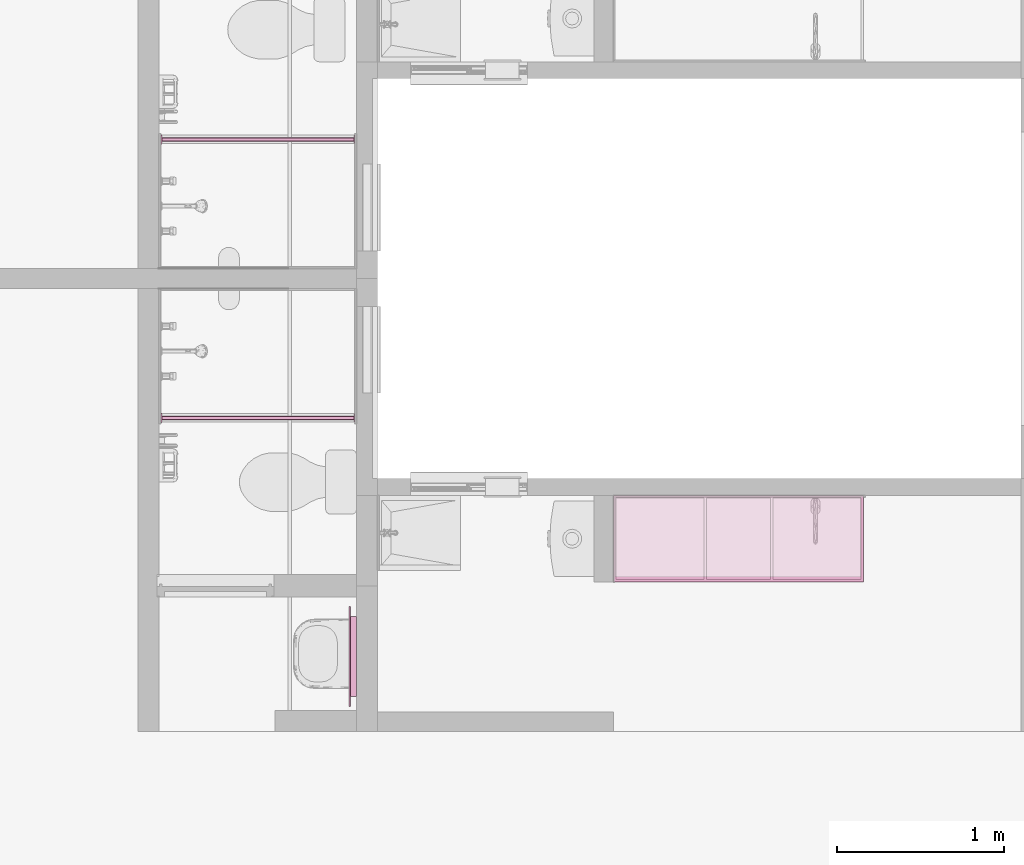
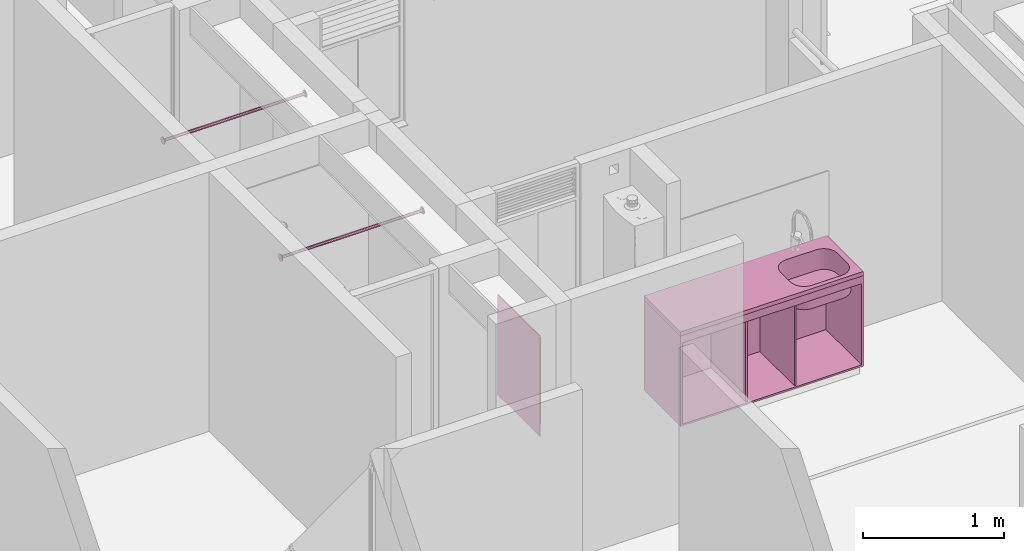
# One storey, part 42 of 48: 5 furniture elements.
"""IFC4 building model written with IfcOpenShell, lengths in metres."""

from ifc_helpers import new_model, entity, si_unit, converted_unit, derived_unit, direction, frame, origin, place, context, subcontext, project, spatial, arc, indexed_curve, outline, extrude, polygons, source, transform, mapped, material, constituent, constituent_set, type_object, type_shapes, element, save


model = new_model("IFC4")

# Units and contexts
model_context = context("Model", 3, precision=1e-05, world=origin(), true_north=direction((6.123031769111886e-17, 1.0)))
body_context = subcontext(model_context, "Body", "Model", "MODEL_VIEW")
ifc_project = project(units=[si_unit("LENGTHUNIT", "METRE"), si_unit("AREAUNIT", "SQUARE_METRE"), si_unit("VOLUMEUNIT", "CUBIC_METRE"), converted_unit("PLANEANGLEUNIT", "DEGREE", entity("IfcRatioMeasure", 0.017453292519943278), si_unit("PLANEANGLEUNIT", "RADIAN"), dimensions=[0, 0, 0, 0, 0, 0, 0]), si_unit("MASSUNIT", "GRAM", prefix="KILO"), derived_unit("MASSDENSITYUNIT", [(si_unit("MASSUNIT", "GRAM", prefix="KILO"), 1), (si_unit("LENGTHUNIT", "METRE"), -3)]), derived_unit("IONCONCENTRATIONUNIT", [(si_unit("MASSUNIT", "GRAM", prefix="KILO"), 1), (si_unit("LENGTHUNIT", "METRE"), -3)]), derived_unit("MOMENTOFINERTIAUNIT", [(si_unit("LENGTHUNIT", "METRE"), 4)]), si_unit("TIMEUNIT", "SECOND"), si_unit("FREQUENCYUNIT", "HERTZ"), si_unit("THERMODYNAMICTEMPERATUREUNIT", "DEGREE_CELSIUS"), derived_unit("THERMALTRANSMITTANCEUNIT", [(si_unit("MASSUNIT", "GRAM", prefix="KILO"), 1), (si_unit("THERMODYNAMICTEMPERATUREUNIT", "KELVIN"), -1), (si_unit("TIMEUNIT", "SECOND"), -3)]), derived_unit("THERMALCONDUCTANCEUNIT", [(si_unit("MASSUNIT", "GRAM", prefix="KILO"), 1), (si_unit("THERMODYNAMICTEMPERATUREUNIT", "KELVIN"), -1), (si_unit("TIMEUNIT", "SECOND"), -3), (si_unit("LENGTHUNIT", "METRE"), 1)]), derived_unit("VOLUMETRICFLOWRATEUNIT", [(si_unit("LENGTHUNIT", "METRE"), 3), (si_unit("TIMEUNIT", "SECOND"), -1)]), derived_unit("MASSFLOWRATEUNIT", [(si_unit("MASSUNIT", "GRAM", prefix="KILO"), 1), (si_unit("TIMEUNIT", "SECOND"), -1)]), derived_unit("ROTATIONALFREQUENCYUNIT", [(si_unit("TIMEUNIT", "SECOND"), -1)]), si_unit("ELECTRICCURRENTUNIT", "AMPERE"), si_unit("ELECTRICVOLTAGEUNIT", "VOLT"), si_unit("POWERUNIT", "WATT"), si_unit("FORCEUNIT", "NEWTON", prefix="KILO"), si_unit("ILLUMINANCEUNIT", "LUX"), si_unit("LUMINOUSFLUXUNIT", "LUMEN"), si_unit("LUMINOUSINTENSITYUNIT", "CANDELA"), derived_unit("USERDEFINED", [(si_unit("MASSUNIT", "GRAM", prefix="KILO"), -1), (si_unit("LENGTHUNIT", "METRE"), -2), (si_unit("TIMEUNIT", "SECOND"), 3), (si_unit("LUMINOUSFLUXUNIT", "LUMEN"), 1)]), derived_unit("USERDEFINED", [(si_unit("MASSUNIT", "GRAM", prefix="KILO"), 1), (si_unit("TIMEUNIT", "SECOND"), -3), (si_unit("LENGTHUNIT", "METRE"), 3), (si_unit("ELECTRICCURRENTUNIT", "AMPERE"), -2)]), derived_unit("SOUNDPOWERUNIT", [(si_unit("MASSUNIT", "GRAM", prefix="KILO"), 1), (si_unit("TIMEUNIT", "SECOND"), -3), (si_unit("LENGTHUNIT", "METRE"), 2)]), derived_unit("SOUNDPRESSUREUNIT", [(si_unit("MASSUNIT", "GRAM", prefix="KILO"), 1), (si_unit("LENGTHUNIT", "METRE"), -1), (si_unit("TIMEUNIT", "SECOND"), -2)]), derived_unit("LINEARVELOCITYUNIT", [(si_unit("LENGTHUNIT", "METRE"), 1), (si_unit("TIMEUNIT", "SECOND"), -1)]), si_unit("PRESSUREUNIT", "PASCAL"), derived_unit("USERDEFINED", [(si_unit("MASSUNIT", "GRAM", prefix="KILO"), 1), (si_unit("LENGTHUNIT", "METRE"), -2), (si_unit("TIMEUNIT", "SECOND"), -2)]), derived_unit("LINEARFORCEUNIT", [(si_unit("MASSUNIT", "GRAM", prefix="KILO"), 1), (si_unit("TIMEUNIT", "SECOND"), -2)]), derived_unit("PLANARFORCEUNIT", [(si_unit("MASSUNIT", "GRAM", prefix="KILO"), 1), (si_unit("LENGTHUNIT", "METRE"), -1), (si_unit("TIMEUNIT", "SECOND"), -2)]), derived_unit("SPECIFICHEATCAPACITYUNIT", [(si_unit("THERMODYNAMICTEMPERATUREUNIT", "KELVIN"), -1), (si_unit("LENGTHUNIT", "METRE"), 2), (si_unit("TIMEUNIT", "SECOND"), -2)]), derived_unit("HEATINGVALUEUNIT", [(si_unit("LENGTHUNIT", "METRE"), 2), (si_unit("TIMEUNIT", "SECOND"), -2)]), derived_unit("VAPORPERMEABILITYUNIT", [(si_unit("LENGTHUNIT", "METRE"), -1), (si_unit("TIMEUNIT", "SECOND"), 1)]), derived_unit("DYNAMICVISCOSITYUNIT", [(si_unit("MASSUNIT", "GRAM", prefix="KILO"), 1), (si_unit("TIMEUNIT", "SECOND"), -1), (si_unit("LENGTHUNIT", "METRE"), -1)]), derived_unit("THERMALEXPANSIONCOEFFICIENTUNIT", [(si_unit("THERMODYNAMICTEMPERATUREUNIT", "KELVIN"), -1)]), derived_unit("MODULUSOFELASTICITYUNIT", [(si_unit("MASSUNIT", "GRAM", prefix="KILO"), 1), (si_unit("LENGTHUNIT", "METRE"), -1), (si_unit("TIMEUNIT", "SECOND"), -2)]), derived_unit("ISOTHERMALMOISTURECAPACITYUNIT", [(si_unit("LENGTHUNIT", "METRE"), 3), (si_unit("MASSUNIT", "GRAM", prefix="KILO"), -1)]), derived_unit("MOISTUREDIFFUSIVITYUNIT", [(si_unit("TIMEUNIT", "SECOND"), -1), (si_unit("LENGTHUNIT", "METRE"), 2)])], contexts=[model_context])

# Site, building, storey
site_placement = place(None, origin())
site = spatial("IfcSite", under=ifc_project, at=site_placement, Name="Default", CompositionType="ELEMENT")
building_placement = place(site_placement, origin())
building = spatial("IfcBuilding", under=site, at=building_placement, CompositionType="ELEMENT")
storey_placement = place(building_placement, frame((0.0, 0.0, 4.700000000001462)))
storey = spatial("IfcBuildingStorey", under=building, at=storey_placement, Name="Nivel 3", CompositionType="ELEMENT", Elevation=4.700000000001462)

# Furniture
ifc_material_1 = material(Name="Aluminio", Category="Materials")
ifc_constituent_1 = constituent(ifc_material_1, Name="Aluminio", Category="Materials")
ifc_material_2 = material(Name="ESPEJO", Category="Materials")
ifc_constituent_2 = constituent(ifc_material_2, Name="ESPEJO", Category="Materials")
ifc_constituent_set_1 = constituent_set(constituents=[ifc_constituent_1, ifc_constituent_2])
ifc_constituent_3 = constituent(ifc_material_1, Name="Aluminio", Category="Materials")
ifc_constituent_4 = constituent(ifc_material_2, Name="ESPEJO", Category="Materials")
ifc_constituent_set_2 = constituent_set(constituents=[ifc_constituent_3, ifc_constituent_4])
furniture_type_1 = type_object("IfcFurnitureType", Name="E2050 - Espejo:E2050 - 0.60m x 0.87m - Espejo", AssemblyPlace="NOTDEFINED", PredefinedType="NOTDEFINED", material=ifc_constituent_set_2)
shared_shape_1 = source(origin(), body_context, "Body", "SweptSolid", [
    extrude(outline(indexed_curve([(-0.23999999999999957, -0.3749999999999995), (0.2399999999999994, -0.3749999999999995), (0.2399999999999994, 0.37499999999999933), (-0.23999999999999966, 0.3749999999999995), (-0.23999999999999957, -0.3749999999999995)], self_intersect=False), holes=[indexed_curve([(0.2149999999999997, -0.34999999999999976), (-0.21499999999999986, -0.34999999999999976), (-0.21499999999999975, 0.34999999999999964), (0.2149999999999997, 0.34999999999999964), (0.2149999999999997, -0.34999999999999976)], self_intersect=False)]), frame((0.12499999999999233, 0.062499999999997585, 1.485), z_axis=(0.0, 1.0, 0.0), x_axis=(1.0, 0.0, 0.0)), (0.0, 0.0, 1.0), 0.037500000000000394),
    extrude(outline(indexed_curve([(-0.00350000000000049, -0.30000000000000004), (0.00350000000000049, -0.30000000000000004), (0.00350000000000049, 0.30000000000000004), (-0.00350000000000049, 0.30000000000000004), (-0.00350000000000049, -0.30000000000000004)], self_intersect=False)), frame((0.1249999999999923, 0.10350000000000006, 1.05), z_axis=(0.0, 0.0, 1.0), x_axis=(0.0, 1.0, 0.0)), (0.0, 0.0, 1.0), 0.87),
])
type_shapes(furniture_type_1, [shared_shape_1])
furniture_1_placement = place(storey_placement, frame((4.024999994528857, -8.815000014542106, -0.020000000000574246), z_axis=(0.0, 0.0, 1.0), x_axis=(0.0, 1.0, 0.0)))
element("IfcFurniture", 1, at=furniture_1_placement, inside=storey, type_object=furniture_type_1, material=ifc_constituent_set_1, Name="E2050 - Espejo:E2050 - 0.60m x 0.87m - Espejo", ObjectType="E2050 - Espejo:E2050 - 0.60m x 0.87m - Espejo", PredefinedType="NOTDEFINED", context=body_context, shape_type="MappedRepresentation", body=[
    mapped(shared_shape_1, transform((0.0, 0.0, 0.0), scale=1.0)),
])

# Space
space_1_placement = place(storey_placement, origin())
space_1 = spatial("IfcSpace", under=storey, at=space_1_placement, Name="151", CompositionType="ELEMENT", PredefinedType="SPACE")

# Furniture
ifc_material_3 = material(Name="<Unnamed>")
furniture_type_2 = type_object("IfcFurnitureType", Name="Barra baño:E2050- Barra Baño- Acero inoxidable", AssemblyPlace="NOTDEFINED", PredefinedType="NOTDEFINED", material=ifc_material_3)
shared_shape_2 = source(origin(), body_context, "Body", "SweptSolid", [
    extrude(outline(indexed_curve([(-0.025, 0.0), (-9.341026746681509e-17, -0.025), (0.025, 2.707167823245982e-16), (-1.316959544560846e-16, 0.025)], segments=[arc(1, 2, 3), arc(3, 4, 1)], self_intersect=False)), frame((-1.1599989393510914, 0.0, 1.8000000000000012), z_axis=(1.0, 0.0, 0.0), x_axis=(0.0, 1.0, 0.0)), (0.0, 0.0, 1.0), 0.005000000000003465),
    extrude(outline(indexed_curve([(-0.03, 0.0), (-1.1209232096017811e-16, -0.029999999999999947), (0.03, 2.707167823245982e-16), (-1.3138979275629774e-16, 0.029999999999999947)], segments=[arc(1, 2, 3), arc(3, 4, 1)], self_intersect=False)), frame((-1.164998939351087, 0.0, 1.8000000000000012), z_axis=(1.0, 0.0, 0.0), x_axis=(0.0, 1.0, 0.0)), (0.0, 0.0, 1.0), 0.0049999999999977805),
    extrude(outline(indexed_curve([(-0.0125, 0.0), (-4.6705133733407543e-17, -0.012499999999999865), (0.0125, 0.0), (7.654042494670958e-19, 0.012499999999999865)], segments=[arc(1, 2, 3), arc(3, 4, 1)], self_intersect=False)), frame((-1.1549989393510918, 0.0, 1.7999999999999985), z_axis=(1.0, 0.0, 0.0), x_axis=(0.0, 1.0, 0.0)), (0.0, 0.0, 1.0), 1.149998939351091),
    extrude(outline(indexed_curve([(-0.025, 0.0), (-2.2663703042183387e-16, -0.025), (0.025, 0.0), (1.5308084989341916e-18, 0.025)], segments=[arc(1, 2, 3), arc(3, 4, 1)], self_intersect=False)), frame((-0.005000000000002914, 0.0, 1.7999999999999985), z_axis=(1.0, 0.0, 0.0), x_axis=(0.0, 1.0, 0.0)), (0.0, 0.0, 1.0), 0.005000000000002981),
    extrude(outline(indexed_curve([(-0.03, 0.0), (-2.1867373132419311e-16, -0.029999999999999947), (0.03, 0.0), (1.8369701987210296e-18, 0.029999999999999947)], segments=[arc(1, 2, 3), arc(3, 4, 1)], self_intersect=False)), frame((0.0, 0.0, 1.7999999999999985), z_axis=(1.0, 0.0, 0.0), x_axis=(0.0, 1.0, 0.0)), (0.0, 0.0, 1.0), 0.00499999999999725),
])
type_shapes(furniture_type_2, [shared_shape_2])
furniture_2_placement = place(space_1_placement, frame((3.952499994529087, -7.260000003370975, 0.1299999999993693)))
element("IfcFurniture", 2, at=furniture_2_placement, inside=space_1, type_object=furniture_type_2, material=ifc_material_3, Name="Barra baño:E2050- Barra Baño- Acero inoxidable", ObjectType="Barra baño:E2050- Barra Baño- Acero inoxidable", PredefinedType="NOTDEFINED", context=body_context, shape_type="MappedRepresentation", body=[
    mapped(shared_shape_2, transform((0.0, 0.0, 0.0), scale=1.0)),
])

# Space
space_2_placement = place(storey_placement, origin())
space_2 = spatial("IfcSpace", under=storey, at=space_2_placement, Name="144", CompositionType="ELEMENT", PredefinedType="SPACE")

# Furniture
furniture_type_3 = type_object("IfcFurnitureType", Name="Barra baño:E2050- Barra Baño- Acero inoxidable", AssemblyPlace="NOTDEFINED", PredefinedType="NOTDEFINED", material=ifc_material_3)
shared_shape_3 = source(origin(), body_context, "Body", "SweptSolid", [
    extrude(outline(indexed_curve([(-0.025, 2.707167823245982e-16), (-2.9325041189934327e-16, -0.025), (0.025, 0.0), (7.924642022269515e-17, 0.025)], segments=[arc(1, 2, 3), arc(3, 4, 1)], self_intersect=False)), frame((-1.1599989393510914, 0.0, 1.8000000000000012), z_axis=(1.0, 0.0, 0.0), x_axis=(0.0, -1.0, 0.0)), (0.0, 0.0, 1.0), 0.005000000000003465),
    extrude(outline(indexed_curve([(-0.03, 2.707167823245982e-16), (-3.2525514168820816e-16, -0.029999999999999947), (0.03, 0.0), (9.509570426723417e-17, 0.029999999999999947)], segments=[arc(1, 2, 3), arc(3, 4, 1)], self_intersect=False)), frame((-1.164998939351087, 0.0, 1.8000000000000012), z_axis=(1.0, 0.0, 0.0), x_axis=(0.0, -1.0, 0.0)), (0.0, 0.0, 1.0), 0.0049999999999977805),
    extrude(outline(indexed_curve([(-0.0125, 0.0), (-8.001182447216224e-17, -0.012499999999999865), (0.0125, 0.0), (3.9623210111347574e-17, 0.012499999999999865)], segments=[arc(1, 2, 3), arc(3, 4, 1)], self_intersect=False)), frame((-1.1549989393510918, 0.0, 1.7999999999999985), z_axis=(1.0, 0.0, 0.0), x_axis=(0.0, -1.0, 0.0)), (0.0, 0.0, 1.0), 1.149998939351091),
    extrude(outline(indexed_curve([(-0.025, 0.0), (-1.600236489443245e-16, -0.025000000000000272), (0.025, 0.0), (-5.398034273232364e-17, 0.02499999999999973)], segments=[arc(1, 2, 3), arc(3, 4, 1)], self_intersect=False)), frame((-0.005000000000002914, 0.0, 1.7999999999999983), z_axis=(1.0, 0.0, 0.0), x_axis=(0.0, -1.0, 0.0)), (0.0, 0.0, 1.0), 0.005000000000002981),
    extrude(outline(indexed_curve([(-0.03, 0.0), (-1.9202837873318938e-16, -0.030000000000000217), (0.03, 0.0), (-3.813105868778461e-17, 0.029999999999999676)], segments=[arc(1, 2, 3), arc(3, 4, 1)], self_intersect=False)), frame((0.0, 0.0, 1.7999999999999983), z_axis=(1.0, 0.0, 0.0), x_axis=(0.0, -1.0, 0.0)), (0.0, 0.0, 1.0), 0.00499999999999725),
])
type_shapes(furniture_type_3, [shared_shape_3])
furniture_3_placement = place(space_2_placement, frame((3.952499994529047, -5.590000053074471, 0.1299999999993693)))
element("IfcFurniture", 3, at=furniture_3_placement, inside=space_2, type_object=furniture_type_3, material=ifc_material_3, Name="Barra baño:E2050- Barra Baño- Acero inoxidable", ObjectType="Barra baño:E2050- Barra Baño- Acero inoxidable", PredefinedType="NOTDEFINED", context=body_context, shape_type="MappedRepresentation", body=[
    mapped(shared_shape_3, transform((0.0, 0.0, 0.0), scale=1.0)),
])

# Space
space_3_placement = place(storey_placement, origin())
space_3 = spatial("IfcSpace", under=storey, at=space_3_placement, Name="154", CompositionType="ELEMENT", PredefinedType="SPACE")

# Furniture
ifc_material_4 = material(Name="mueble cocina", Category="Materials")
furniture_type_4 = type_object("IfcFurnitureType", Name="E2010 - Mueble bajo de cocina - Madera:E2010 - 1.50 x 0.52 - Mueble bajo de cocina - Madera", AssemblyPlace="NOTDEFINED", PredefinedType="NOTDEFINED", material=ifc_material_4)
shared_shape_4 = source(origin(), body_context, "Body", "SweptSolid", [
    extrude(outline(indexed_curve([(-0.007500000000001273, -0.7349999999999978), (0.007499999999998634, -0.7349999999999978), (0.007500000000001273, 0.7349999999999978), (-0.007499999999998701, 0.7349999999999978), (-0.007500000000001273, -0.7349999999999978)], self_intersect=False)), frame((0.04470032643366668, -0.5125000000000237, 0.8149999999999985), z_axis=(0.0, 0.0, 1.0), x_axis=(0.0, -1.0, 0.0)), (0.0, 0.0, 1.0), 0.06500000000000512),
    extrude(outline(indexed_curve([(-0.2600000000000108, -0.7499999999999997), (0.260000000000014, -0.7499999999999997), (0.2600000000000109, 0.7500000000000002), (-0.2600000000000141, 0.7499999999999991), (-0.2600000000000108, -0.7499999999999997)], self_intersect=False)), frame((0.04470032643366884, -0.2600000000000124, 0.09500000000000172), z_axis=(0.0, 0.0, 1.0), x_axis=(0.0, -1.0, 0.0)), (0.0, 0.0, 1.0), 0.0149999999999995),
    extrude(outline(indexed_curve([(-0.007500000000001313, -0.7500000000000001), (0.007499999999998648, -0.7500000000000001), (0.0075000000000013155, 0.7500000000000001), (-0.007499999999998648, 0.7500000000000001), (-0.007500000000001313, -0.7500000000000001)], self_intersect=False)), frame((0.04470032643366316, -0.00749999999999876, 0.11000000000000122), z_axis=(0.0, 0.0, 1.0), x_axis=(0.0, -1.0, 0.0)), (0.0, 0.0, 1.0), 0.7700000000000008),
    extrude(outline(indexed_curve([(-0.007500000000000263, -0.24500000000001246), (0.007499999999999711, -0.24500000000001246), (0.007500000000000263, 0.24500000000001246), (-0.007499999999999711, 0.24500000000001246), (-0.007500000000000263, -0.24500000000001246)], self_intersect=False)), frame((-0.1552996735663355, -0.2600000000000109, 0.11000000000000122), z_axis=(0.0, 0.0, 1.0), x_axis=(-1.0, 0.0, 0.0)), (0.0, 0.0, 1.0), 0.7700000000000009),
    extrude(outline(indexed_curve([(-0.007499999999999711, -0.24500000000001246), (0.007500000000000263, -0.24500000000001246), (0.007499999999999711, 0.24500000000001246), (-0.007500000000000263, 0.24500000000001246), (-0.007499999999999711, -0.24500000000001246)], self_intersect=False)), frame((0.24470032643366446, -0.26000000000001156, 0.11000000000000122), z_axis=(0.0, 0.0, 1.0), x_axis=(-1.0, 0.0, 0.0)), (0.0, 0.0, 1.0), 0.7700000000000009),
    extrude(outline(indexed_curve([(-0.00750000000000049, -0.2525000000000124), (0.0074999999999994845, -0.25250000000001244), (0.007500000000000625, 0.2525000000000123), (-0.007499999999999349, 0.2525000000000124), (-0.00750000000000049, -0.2525000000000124)], self_intersect=False)), frame((0.7872003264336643, -0.2675000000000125, 0.11000000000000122), z_axis=(0.0, 0.0, 1.0), x_axis=(-1.0, 0.0, 0.0)), (0.0, 0.0, 1.0), 0.7700000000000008),
    extrude(outline(indexed_curve([(-0.007499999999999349, -0.2525000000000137), (0.007500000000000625, -0.2525000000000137), (0.0074999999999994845, 0.25250000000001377), (-0.00750000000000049, 0.2525000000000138), (-0.007499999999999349, -0.2525000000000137)], self_intersect=False)), frame((-0.697799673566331, -0.2675000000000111, 0.11000000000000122), z_axis=(0.0, 0.0, 1.0), x_axis=(-1.0, 0.0, 0.0)), (0.0, 0.0, 1.0), 0.7700000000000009),
])
type_shapes(furniture_type_4, [shared_shape_4])
furniture_4_placement = place(space_3_placement, frame((6.207799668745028, -7.7250000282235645, 0.014999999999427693)))
element("IfcFurniture", 4, at=furniture_4_placement, inside=space_3, type_object=furniture_type_4, material=ifc_material_4, Name="E2010 - Mueble bajo de cocina - Madera:E2010 - 1.50 x 0.52 - Mueble bajo de cocina - Madera", ObjectType="E2010 - Mueble bajo de cocina - Madera:E2010 - 1.50 x 0.52 - Mueble bajo de cocina - Madera", PredefinedType="NOTDEFINED", context=body_context, shape_type="MappedRepresentation", body=[
    mapped(shared_shape_4, transform((0.0, 0.0, 0.0), scale=1.0)),
])
ifc_material_5 = material(Name="Mesón cocina", Category="Materials")
furniture_type_5 = type_object("IfcFurnitureType", Name="E1060 - Meson Socoda Radiante - 1.50 X 0.52 - Acero inoxidable:E1060 - 1.50 x 0.52 - Meson de cocina, lavadero y estufa - Acero inoxidable", AssemblyPlace="NOTDEFINED", PredefinedType="NOTDEFINED", material=ifc_material_5)
shared_shape_5 = source(origin(), body_context, "Body", "Tessellation", [
    polygons([(0.7500000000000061, 0.2600000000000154, 0.03499999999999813), (-0.7499999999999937, 0.2600000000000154, 0.03499999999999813), (-0.7499999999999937, -0.2600000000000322, 0.03499999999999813), (0.7500000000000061, -0.2600000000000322, 0.03499999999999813), (0.23610399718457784, 0.03077661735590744, 0.03499999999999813), (0.23985215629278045, 0.05924671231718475, 0.03499999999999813), (0.2508412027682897, 0.08577661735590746, 0.03499999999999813), (0.2683222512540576, 0.10855836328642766, 0.03499999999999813), (0.2911039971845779, 0.1260394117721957, 0.03499999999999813), (0.31763390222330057, 0.13702845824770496, 0.03499999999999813), (0.3461039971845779, 0.1407766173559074, 0.03499999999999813), (0.593473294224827, 0.14077661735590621, 0.03499999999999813), (0.6219433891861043, 0.13702845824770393, 0.03499999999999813), (0.6484732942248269, 0.1260394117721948, 0.03499999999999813), (0.6712550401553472, 0.10855836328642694, 0.03499999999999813), (0.6887360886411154, 0.08577661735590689, 0.03499999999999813), (0.6997251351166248, 0.05924671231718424, 0.03499999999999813), (0.7034732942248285, 0.03077661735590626, 0.03499999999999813), (0.703473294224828, -0.11422338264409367, 0.03499999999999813), (0.6997251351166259, -0.14269347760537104, 0.03499999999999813), (0.6887360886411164, -0.1692233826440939, 0.03499999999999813), (0.6712550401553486, -0.1920051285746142, 0.03499999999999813), (0.6484732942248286, -0.20948617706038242, 0.03499999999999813), (0.6219433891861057, -0.22047522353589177, 0.03499999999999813), (0.5934732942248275, -0.22422338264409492, 0.03499999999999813), (0.3461039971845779, -0.22422338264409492, 0.03499999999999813), (0.31763390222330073, -0.22047522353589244, 0.03499999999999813), (0.2911039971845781, -0.20948617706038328, 0.03499999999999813), (0.2683222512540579, -0.1920051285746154, 0.03499999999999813), (0.2508412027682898, -0.1692233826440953, 0.03499999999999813), (0.23985215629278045, -0.14269347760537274, 0.03499999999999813), (0.23610399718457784, -0.11422338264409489, 0.03499999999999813), (0.7500000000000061, 0.2600000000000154, -1.8678232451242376e-15), (0.7500000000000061, -0.2600000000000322, -1.8678232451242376e-15), (-0.7499999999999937, -0.2600000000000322, -1.8678232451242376e-15), (-0.7499999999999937, 0.2600000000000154, -1.8678232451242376e-15), (0.5934732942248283, 0.1507766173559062, -1.8678232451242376e-15), (0.34610399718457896, 0.1507766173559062, -1.8678232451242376e-15), (0.31504571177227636, 0.1466877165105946, -1.8678232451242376e-15), (0.2861039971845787, 0.13469966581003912, -1.8678232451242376e-15), (0.2612511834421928, 0.11562943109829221, -1.8678232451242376e-15), (0.2421809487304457, 0.09077661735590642, -1.8678232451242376e-15), (0.23019289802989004, 0.06183490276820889, -1.8678232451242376e-15), (0.22610399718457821, 0.030776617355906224, -1.8678232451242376e-15), (0.22610399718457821, -0.11422338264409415, -1.8678232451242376e-15), (0.2301928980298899, -0.14528166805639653, -1.8678232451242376e-15), (0.24218094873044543, -0.17422338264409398, -1.8678232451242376e-15), (0.2612511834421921, -0.19907619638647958, -1.8678232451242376e-15), (0.2861039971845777, -0.2181464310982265, -1.8678232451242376e-15), (0.31504571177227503, -0.2301344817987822, -1.8678232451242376e-15), (0.3461039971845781, -0.23422338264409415, -1.8678232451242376e-15), (0.5934732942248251, -0.23422338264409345, -1.8678232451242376e-15), (0.6245315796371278, -0.2301344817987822, -1.8678232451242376e-15), (0.6534732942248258, -0.21814643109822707, -1.8678232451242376e-15), (0.6783261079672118, -0.19907619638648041, -1.8678232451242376e-15), (0.6973963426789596, -0.17422338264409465, -1.8678232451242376e-15), (0.7093843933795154, -0.14528166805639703, -1.8678232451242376e-15), (0.7134732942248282, -0.11422338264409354, -1.8678232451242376e-15), (0.7134732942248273, 0.030776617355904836, -1.8678232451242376e-15), (0.7093843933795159, 0.061834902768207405, -1.8678232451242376e-15), (0.6973963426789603, 0.09077661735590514, -1.8678232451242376e-15), (0.6783261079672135, 0.11562943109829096, -1.8678232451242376e-15), (0.6534732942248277, 0.13469966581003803, -1.8678232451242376e-15), (0.62453157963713, 0.1466877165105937, -1.8678232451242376e-15), (0.5934732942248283, 0.15077661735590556, -0.16000000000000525), (0.6245315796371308, 0.1466877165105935, -0.16000000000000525), (0.6534732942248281, 0.13469966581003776, -0.16000000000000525), (0.6783261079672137, 0.1156294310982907, -0.16000000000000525), (0.6973963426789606, 0.0907766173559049, -0.16000000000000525), (0.7093843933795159, 0.06183490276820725, -0.16000000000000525), (0.7134732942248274, 0.030776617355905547, -0.16000000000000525), (0.7134732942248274, -0.11422338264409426, -0.16000000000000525), (0.7093843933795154, -0.1452816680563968, -0.16000000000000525), (0.6973963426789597, -0.1742233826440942, -0.16000000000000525), (0.6783261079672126, -0.19907619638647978, -0.16000000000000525), (0.6534732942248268, -0.21814643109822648, -0.16000000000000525), (0.6245315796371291, -0.2301344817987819, -0.16000000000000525), (0.5934732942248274, -0.2342233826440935, -0.16000000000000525), (0.3461039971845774, -0.23422338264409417, -0.16000000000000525), (0.3150457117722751, -0.23013448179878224, -0.16000000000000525), (0.28610399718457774, -0.21814643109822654, -0.16000000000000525), (0.26125118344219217, -0.19907619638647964, -0.16000000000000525), (0.24218094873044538, -0.17422338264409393, -0.16000000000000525), (0.2301928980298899, -0.14528166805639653, -0.16000000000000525), (0.22610399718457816, -0.11422338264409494, -0.16000000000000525), (0.22610399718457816, 0.030776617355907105, -0.16000000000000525), (0.23019289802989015, 0.06183490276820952, -0.16000000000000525), (0.2421809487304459, 0.09077661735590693, -0.16000000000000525), (0.261251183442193, 0.11562943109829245, -0.16000000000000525), (0.2861039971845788, 0.13469966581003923, -0.16000000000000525), (0.31504571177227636, 0.1466877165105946, -0.16000000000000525), (0.3461039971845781, 0.1507766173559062, -0.16000000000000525), (0.3461039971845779, 0.14077661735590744, -0.14475899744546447), (0.31763390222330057, 0.13702845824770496, -0.14475899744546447), (0.2911039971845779, 0.1260394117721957, -0.14475899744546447), (0.2683222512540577, 0.10855836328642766, -0.14475899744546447), (0.25084120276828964, 0.08577661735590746, -0.14475899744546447), (0.2398521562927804, 0.05924671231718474, -0.14475899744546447), (0.23610399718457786, 0.03077661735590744, -0.14475899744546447), (0.23610399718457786, -0.11422338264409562, -0.14475899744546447), (0.23985215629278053, -0.14269347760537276, -0.14475899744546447), (0.25084120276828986, -0.16922338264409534, -0.14475899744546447), (0.2683222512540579, -0.19200512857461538, -0.14475899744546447), (0.2911039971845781, -0.20948617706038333, -0.14475899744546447), (0.31763390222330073, -0.22047522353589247, -0.14475899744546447), (0.3461039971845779, -0.2242233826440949, -0.14475899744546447), (0.5934732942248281, -0.22422338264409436, -0.14475899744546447), (0.6219433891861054, -0.22047522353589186, -0.14475899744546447), (0.6484732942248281, -0.20948617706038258, -0.14475899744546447), (0.6712550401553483, -0.19200512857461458, -0.14475899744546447), (0.6887360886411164, -0.16922338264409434, -0.14475899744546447), (0.6997251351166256, -0.14269347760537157, -0.14475899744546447), (0.7034732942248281, -0.11422338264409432, -0.14475899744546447), (0.7034732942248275, 0.030776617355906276, -0.14475899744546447), (0.699725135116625, 0.05924671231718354, -0.14475899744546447), (0.6887360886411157, 0.08577661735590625, -0.14475899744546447), (0.6712550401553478, 0.10855836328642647, -0.14475899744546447), (0.6484732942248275, 0.1260394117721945, -0.14475899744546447), (0.6219433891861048, 0.13702845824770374, -0.14475899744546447), (0.5934732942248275, 0.14077661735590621, -0.14475899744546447)], [[[1, 2, 3, 4], [17, 18, 19, 20, 21, 22, 23, 24, 25, 26, 27, 28, 29, 30, 31, 32, 5, 6, 7, 8, 9, 10, 11, 12, 13, 14, 15, 16]], [[118, 119, 120, 93, 94, 95, 96, 97, 98, 99, 100, 101, 102, 103, 104, 105, 106, 107, 108, 109, 110, 111, 112, 113, 114, 115, 116, 117]], [[36, 33, 34, 35], [43, 44, 45, 46, 47, 48, 49, 50, 51, 52, 53, 54, 55, 56, 57, 58, 59, 60, 61, 62, 63, 64, 37, 38, 39, 40, 41, 42]], [[89, 90, 91, 92, 65, 66, 67, 68, 69, 70, 71, 72, 73, 74, 75, 76, 77, 78, 79, 80, 81, 82, 83, 84, 85, 86, 87, 88]], [[2, 1, 33, 36]], [[38, 37, 65, 92]], [[106, 26, 25, 107]], [[3, 2, 36, 35]], [[45, 44, 86, 85]], [[114, 113, 19, 18]], [[4, 3, 35, 34]], [[52, 51, 79, 78]], [[120, 12, 11, 93]], [[1, 4, 34, 33]], [[59, 58, 72, 71]], [[99, 5, 32, 100]], [[39, 91, 90, 40]], [[109, 108, 24, 23]], [[40, 90, 89, 41]], [[110, 109, 23, 22]], [[92, 91, 39, 38]], [[25, 24, 108, 107]], [[42, 88, 87, 43]], [[112, 111, 21, 20]], [[43, 87, 86, 44]], [[113, 112, 20, 19]], [[41, 89, 88, 42]], [[21, 111, 110, 22]], [[46, 84, 83, 47]], [[17, 16, 116, 115]], [[47, 83, 82, 48]], [[16, 15, 117, 116]], [[85, 84, 46, 45]], [[115, 114, 18, 17]], [[49, 81, 80, 50]], [[119, 118, 14, 13]], [[50, 80, 79, 51]], [[120, 119, 13, 12]], [[48, 82, 81, 49]], [[14, 118, 117, 15]], [[53, 77, 76, 54]], [[95, 94, 10, 9]], [[54, 76, 75, 55]], [[96, 95, 9, 8]], [[78, 77, 53, 52]], [[11, 10, 94, 93]], [[56, 74, 73, 57]], [[98, 97, 7, 6]], [[57, 73, 72, 58]], [[99, 98, 6, 5]], [[55, 75, 74, 56]], [[7, 97, 96, 8]], [[60, 70, 69, 61]], [[102, 101, 31, 30]], [[61, 69, 68, 62]], [[103, 102, 30, 29]], [[71, 70, 60, 59]], [[32, 31, 101, 100]], [[63, 67, 66, 64]], [[105, 104, 28, 27]], [[64, 66, 65, 37]], [[106, 105, 27, 26]], [[62, 68, 67, 63]], [[28, 104, 103, 29]]], closed=True),
])
type_shapes(furniture_type_5, [shared_shape_5])
furniture_5_placement = place(space_3_placement, frame((6.252499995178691, -7.98500002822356, 0.8949999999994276)))
element("IfcFurniture", 5, at=furniture_5_placement, inside=space_3, type_object=furniture_type_5, material=ifc_material_5, Name="E1060 - Meson Socoda Radiante - 1.50 X 0.52 - Acero inoxidable:E1060 - 1.50 x 0.52 - Meson de cocina, lavadero y estufa - Acero inoxidable", ObjectType="E1060 - Meson Socoda Radiante - 1.50 X 0.52 - Acero inoxidable:E1060 - 1.50 x 0.52 - Meson de cocina, lavadero y estufa - Acero inoxidable", PredefinedType="NOTDEFINED", context=body_context, shape_type="MappedRepresentation", body=[
    mapped(shared_shape_5, transform((0.0, 0.0, 0.0), scale=1.0)),
])

save(model, "model.ifc")
